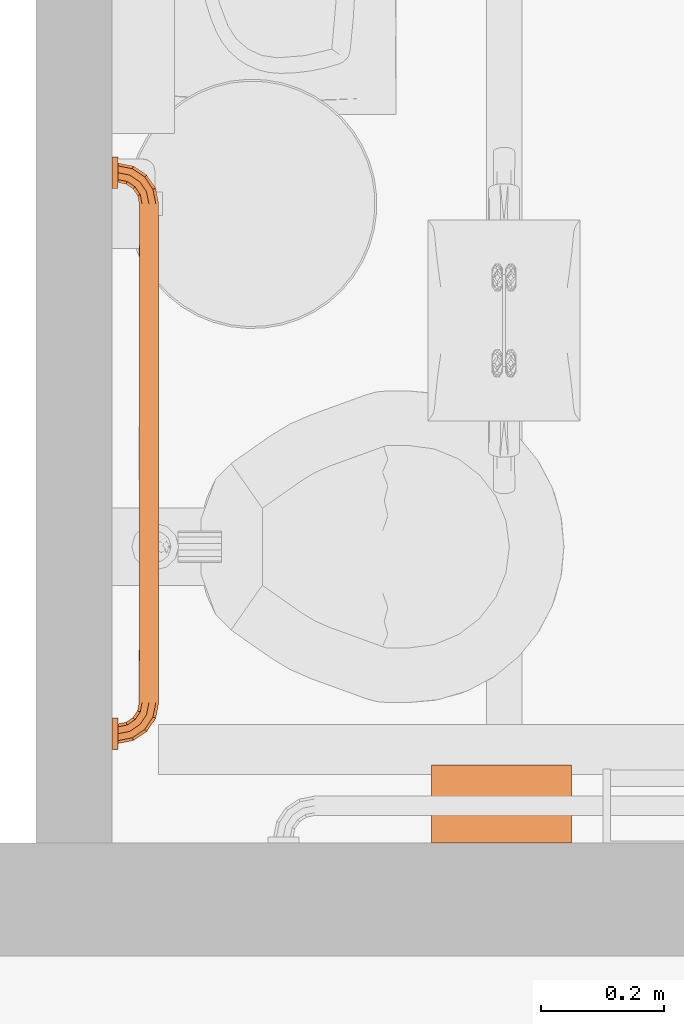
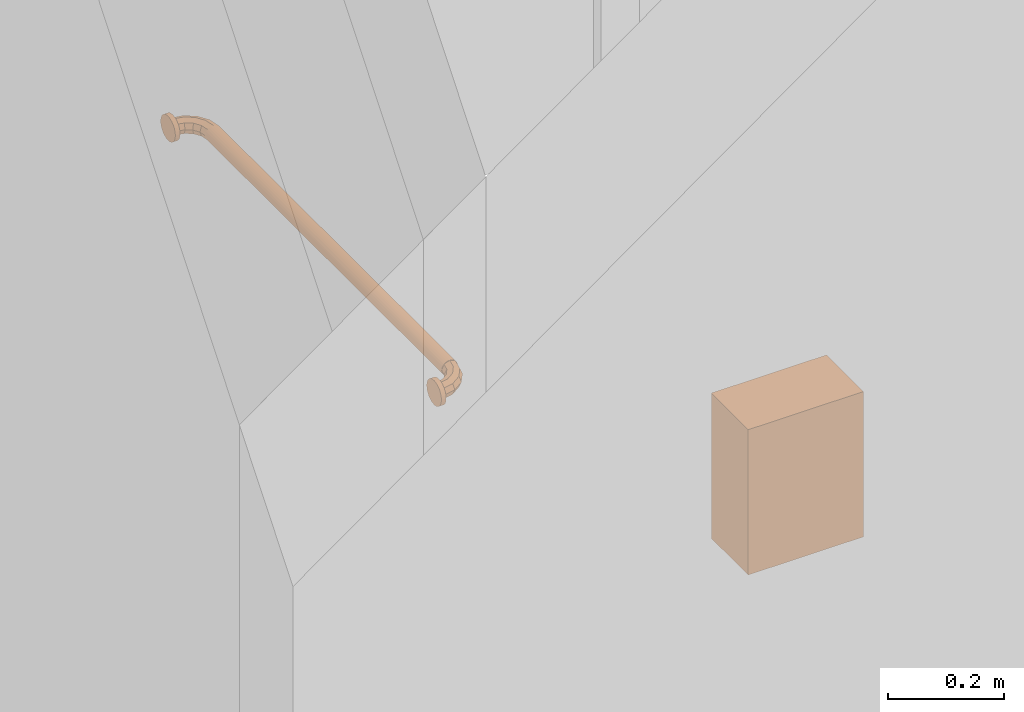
# One storey, part 69 of 142: 2 proxies.
"""IFC2X3 building model written with IfcOpenShell, lengths in feet."""

from ifc_helpers import new_model, entity, si_unit, converted_unit, derived_unit, direction, frame, frame_2d, origin, origin_2d_with_axis, place, context, subcontext, project, spatial, polyline, rectangle, outline, extrude, faceted_brep, source, transform, mapped, type_object, type_shapes, element, save


model = new_model("IFC2X3")

# Units and contexts
model_context = context("Model", 3, precision=0.0001, world=origin(), true_north=direction((6.12303176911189e-17, 1.0)))
body_context = subcontext(model_context, "Body", "Model", "MODEL_VIEW")
ifc_project = project(units=[converted_unit("LENGTHUNIT", "FOOT", entity("IfcRatioMeasure", 0.3048), si_unit("LENGTHUNIT", "METRE"), dimensions=[1, 0, 0, 0, 0, 0, 0]), converted_unit("AREAUNIT", "SQUARE FOOT", entity("IfcRatioMeasure", 0.09290304), si_unit("AREAUNIT", "SQUARE_METRE"), dimensions=[2, 0, 0, 0, 0, 0, 0]), converted_unit("VOLUMEUNIT", "CUBIC FOOT", entity("IfcRatioMeasure", 0.028316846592), si_unit("VOLUMEUNIT", "CUBIC_METRE"), dimensions=[3, 0, 0, 0, 0, 0, 0]), converted_unit("PLANEANGLEUNIT", "DEGREE", entity("IfcRatioMeasure", 0.0174532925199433), si_unit("PLANEANGLEUNIT", "RADIAN"), dimensions=[0, 0, 0, 0, 0, 0, 0]), si_unit("MASSUNIT", "GRAM", prefix="KILO"), derived_unit("MASSDENSITYUNIT", [(si_unit("MASSUNIT", "GRAM", prefix="KILO"), 1), (si_unit("LENGTHUNIT", "METRE"), -3)]), si_unit("TIMEUNIT", "SECOND"), si_unit("FREQUENCYUNIT", "HERTZ"), si_unit("THERMODYNAMICTEMPERATUREUNIT", "DEGREE_CELSIUS"), derived_unit("THERMALTRANSMITTANCEUNIT", [(si_unit("MASSUNIT", "GRAM", prefix="KILO"), 1), (si_unit("THERMODYNAMICTEMPERATUREUNIT", "KELVIN"), -1), (si_unit("TIMEUNIT", "SECOND"), -3)]), derived_unit("VOLUMETRICFLOWRATEUNIT", [(si_unit("LENGTHUNIT", "METRE"), 3), (si_unit("TIMEUNIT", "SECOND"), -1)]), si_unit("ELECTRICCURRENTUNIT", "AMPERE"), si_unit("ELECTRICVOLTAGEUNIT", "VOLT"), si_unit("POWERUNIT", "WATT"), si_unit("FORCEUNIT", "NEWTON"), si_unit("ILLUMINANCEUNIT", "LUX"), si_unit("LUMINOUSFLUXUNIT", "LUMEN"), si_unit("LUMINOUSINTENSITYUNIT", "CANDELA"), derived_unit("USERDEFINED", [(si_unit("MASSUNIT", "GRAM", prefix="KILO"), -1), (si_unit("LENGTHUNIT", "METRE"), -2), (si_unit("TIMEUNIT", "SECOND"), 3), (si_unit("LUMINOUSFLUXUNIT", "LUMEN"), 1)]), derived_unit("LINEARVELOCITYUNIT", [(si_unit("LENGTHUNIT", "METRE"), 1), (si_unit("TIMEUNIT", "SECOND"), -1)]), si_unit("PRESSUREUNIT", "PASCAL"), derived_unit("USERDEFINED", [(si_unit("LENGTHUNIT", "METRE"), -2), (si_unit("MASSUNIT", "GRAM", prefix="KILO"), 1), (si_unit("TIMEUNIT", "SECOND"), -2)])], contexts=[model_context])

# Site, building, storey, space
site_placement = place(None, origin())
site = spatial("IfcSite", under=ifc_project, at=site_placement, Name="Default", CompositionType="ELEMENT")
building_placement = place(site_placement, origin())
building = spatial("IfcBuilding", under=site, at=building_placement, Name="OUTPATIENT / PACT CLINIC (Ch. 265)", CompositionType="ELEMENT")
storey_placement = place(building_placement, origin())
storey = spatial("IfcBuildingStorey", under=building, at=storey_placement, Name="LEVEL 1", CompositionType="ELEMENT", Elevation=0.0)
space_placement = place(storey_placement, origin())
space = spatial("IfcSpace", under=storey, at=space_placement, Name="TNPG1", CompositionType="ELEMENT", InteriorOrExteriorSpace="INTERNAL")

# Proxies
building_element_proxy_type_1 = type_object("IfcBuildingElementProxyType", Name="A5090 - Dispenser, Sanitary Napkin, SS, Surface Mounted", PredefinedType="NOTDEFINED")
shared_shape_1 = source(origin(), body_context, "Body", "SweptSolid", [
    extrude(rectangle(XDim=0.75, YDim=0.0833333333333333, at=frame_2d((0.0, -6.93889390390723e-18), x_axis=(1.0, 0.0))), frame((0.0, 0.0416666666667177, 0.87500000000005), z_axis=(0.0, 0.0, 1.0), x_axis=(-1.0, 0.0, 0.0)), (0.0, 0.0, 1.0), 0.125000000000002),
    extrude(outline(polyline([(-0.0828981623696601, -0.378205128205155), (0.0421018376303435, -0.378205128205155), (0.042101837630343, -0.0865384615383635), (0.0166807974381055, -0.0793339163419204), (-0.0043447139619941, -0.0589660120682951), (-0.017339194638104, -0.0289565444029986), (-0.0200557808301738, 0.0055055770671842), (-0.0120247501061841, 0.038461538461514), (0.00536525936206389, 0.0642129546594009), (0.0291073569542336, 0.0783071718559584), (0.0421018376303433, 0.0801282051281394), (0.0421018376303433, 0.371794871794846), (-0.0828981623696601, 0.371794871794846), (-0.0828981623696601, -0.378205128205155)])), frame((-0.00320512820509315, 0.0833333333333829, 0.917101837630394), z_axis=(0.0, 1.0, 0.0), x_axis=(0.0, 0.0, -1.0)), (0.0, 0.0, 1.0), 0.333333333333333),
    extrude(rectangle(XDim=0.749999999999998, YDim=0.416666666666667, at=origin_2d_with_axis()), frame((0.0, 0.208333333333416, 0.0), z_axis=(0.0, 0.0, 1.0), x_axis=(-1.0, 0.0, 0.0)), (0.0, 0.0, 1.0), 0.875000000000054),
])
type_shapes(building_element_proxy_type_1, [shared_shape_1])
proxy_1_placement = place(space_placement, frame((394.046783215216, -952.649655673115, 1.5)))
element("IfcBuildingElementProxy", 1, at=proxy_1_placement, inside=space, type_object=building_element_proxy_type_1, Name="A5090 - Dispenser, Sanitary Napkin, SS, Surface Mounted1:A5090 - Dispenser, Sanitary Napkin, SS, Surface Mounted", ObjectType="A5090 - Dispenser, Sanitary Napkin, SS, Surface Mounted", context=body_context, shape_type="MappedRepresentation", body=[
    mapped(shared_shape_1, transform((0.0, 0.0, 0.0), scale=1.0)),
])
building_element_proxy_type_2 = type_object("IfcBuildingElementProxyType", Name="A5109 - Grab Bar, 1.25 in Dia, SS, 2 Wall, W-C Accessible_Improved", PredefinedType="NOTDEFINED")
shared_shape_2 = source(origin(), body_context, "Body", "Brep", [
    faceted_brep([(0.987313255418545, 0.0950305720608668, 0.0520833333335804), (0.953288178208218, 0.0809369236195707, 0.0368284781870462), (0.963171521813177, 0.031249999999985, 0.0368284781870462), (1.0, 0.0312499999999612, 0.0520833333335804), (0.939194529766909, 0.0750991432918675, 0.0), (0.947916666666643, 0.0312499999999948, 0.0), (0.953288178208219, 0.0809369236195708, -0.0368284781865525), (0.963171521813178, 0.031249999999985, -0.0368284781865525), (0.987313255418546, 0.0950305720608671, -0.0520833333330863), (1.0, 0.0312499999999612, -0.0520833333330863), (1.02133833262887, 0.109124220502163, -0.036828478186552), (1.03682847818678, 0.0312499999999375, -0.036828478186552), (1.03543198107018, 0.114962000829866, 0.0), (1.05208333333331, 0.0312499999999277, 0.0), (1.02133833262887, 0.109124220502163, 0.0368284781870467), (1.03682847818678, 0.0312499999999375, 0.0368284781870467), (0.951184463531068, 0.149101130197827, 0.0520833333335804), (0.925142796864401, 0.12305946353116, 0.0368284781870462), (0.914355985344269, 0.112272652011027, 0.0), (0.925142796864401, 0.12305946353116, -0.0368284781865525), (0.951184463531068, 0.149101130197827, -0.0520833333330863), (0.977226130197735, 0.175142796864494, -0.036828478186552), (0.988012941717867, 0.185929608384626, 0.0), (0.977226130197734, 0.175142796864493, 0.0368284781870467), (0.897113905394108, 0.185229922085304, 0.0520833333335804), (0.883020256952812, 0.151204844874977, 0.0368284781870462), (0.877182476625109, 0.137111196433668, 0.0), (0.883020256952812, 0.151204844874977, -0.0368284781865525), (0.897113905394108, 0.185229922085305, -0.0520833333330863), (0.911207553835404, 0.219254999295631, -0.036828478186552), (0.917045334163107, 0.23334864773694, 0.0), (0.911207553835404, 0.219254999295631, 0.0368284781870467), (0.833333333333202, 0.197916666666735, 0.0520833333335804), (0.833333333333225, 0.161088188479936, 0.0368284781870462), (0.833333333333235, 0.145833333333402, 0.0), (0.833333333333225, 0.161088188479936, -0.0368284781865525), (0.833333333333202, 0.197916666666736, -0.0520833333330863), (0.833333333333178, 0.234745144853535, -0.036828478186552), (0.833333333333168, 0.250000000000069, 0.0), (0.833333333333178, 0.234745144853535, 0.0368284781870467)], [[[0, 1, 2, 3]], [[1, 4, 5, 2]], [[4, 6, 7, 5]], [[6, 8, 9, 7]], [[8, 10, 11, 9]], [[10, 12, 13, 11]], [[12, 14, 15, 13]], [[14, 0, 3, 15]], [[16, 17, 1, 0]], [[17, 18, 4, 1]], [[18, 19, 6, 4]], [[19, 20, 8, 6]], [[20, 21, 10, 8]], [[21, 22, 12, 10]], [[22, 23, 14, 12]], [[23, 16, 0, 14]], [[24, 25, 17, 16]], [[25, 26, 18, 17]], [[26, 27, 19, 18]], [[27, 28, 20, 19]], [[28, 29, 21, 20]], [[29, 30, 22, 21]], [[30, 31, 23, 22]], [[31, 24, 16, 23]], [[32, 33, 25, 24]], [[33, 34, 26, 25]], [[34, 35, 27, 26]], [[35, 36, 28, 27]], [[36, 37, 29, 28]], [[37, 38, 30, 29]], [[38, 39, 31, 30]], [[39, 32, 24, 31]], [[3, 2, 5, 7, 9, 11, 13, 15]], [[39, 38, 37, 36, 35, 34, 33, 32]]]),
    faceted_brep([(0.958333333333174, 0.0312499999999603, -0.0721687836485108), (0.941074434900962, 0.0312499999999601, -0.0589255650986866), (0.927831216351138, 0.0312499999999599, -0.0416666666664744), (0.919506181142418, 0.0312499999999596, -0.0215682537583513), (0.916666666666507, 0.0312499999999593, 0.0), (0.919506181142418, 0.031249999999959, 0.021568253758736), (0.927831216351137, 0.0312499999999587, 0.0416666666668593), (0.941074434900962, 0.0312499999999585, 0.0589255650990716), (0.958333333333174, 0.0312499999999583, 0.0721687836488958), (0.978431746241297, 0.0312499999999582, 0.080493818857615), (1.0, 0.0312499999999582, 0.083333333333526), (1.02156825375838, 0.0312499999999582, 0.080493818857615), (1.04166666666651, 0.0312499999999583, 0.0721687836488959), (1.05892556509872, 0.0312499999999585, 0.0589255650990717), (1.07216878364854, 0.0312499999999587, 0.0416666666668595), (1.08049381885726, 0.031249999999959, 0.0215682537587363), (1.08333333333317, 0.0312499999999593, 0.0), (1.08049381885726, 0.0312499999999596, -0.0215682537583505), (1.07216878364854, 0.0312499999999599, -0.0416666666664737), (1.05892556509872, 0.0312499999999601, -0.0589255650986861), (1.04166666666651, 0.0312499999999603, -0.0721687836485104), (1.02156825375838, 0.0312499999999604, -0.0804938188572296), (1.0, 0.0312499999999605, -0.0833333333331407), (0.978431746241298, 0.0312499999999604, -0.0804938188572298), (0.978431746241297, 0.0, 0.0804938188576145), (0.958333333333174, 0.0, 0.0721687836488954), (0.941074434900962, 0.0, 0.0589255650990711), (0.927831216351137, 0.0, 0.0416666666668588), (0.919506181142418, 0.0, 0.0215682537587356), (0.916666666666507, 0.0, 0.0), (0.919506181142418, 0.0, -0.0215682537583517), (0.927831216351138, 0.0, -0.0416666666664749), (0.941074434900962, 0.0, -0.0589255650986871), (0.958333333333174, 0.0, -0.0721687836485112), (0.978431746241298, 0.0, -0.0804938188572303), (1.0, 0.0, -0.0833333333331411), (1.02156825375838, 0.0, -0.0804938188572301), (1.04166666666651, 0.0, -0.0721687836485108), (1.05892556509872, 0.0, -0.0589255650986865), (1.07216878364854, 0.0, -0.0416666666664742), (1.08049381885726, 0.0, -0.0215682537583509), (1.08333333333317, 0.0, 0.0), (1.08049381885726, 0.0, 0.0215682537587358), (1.07216878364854, 0.0, 0.0416666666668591), (1.05892556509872, 0.0, 0.0589255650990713), (1.04166666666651, 0.0, 0.0721687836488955), (1.02156825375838, 0.0, 0.0804938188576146), (1.0, 0.0, 0.0833333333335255)], [[[0, 1, 2, 3, 4, 5, 6, 7, 8, 9, 10, 11, 12, 13, 14, 15, 16, 17, 18, 19, 20, 21, 22, 23]], [[24, 25, 26, 27, 28, 29, 30, 31, 32, 33, 34, 35, 36, 37, 38, 39, 40, 41, 42, 43, 44, 45, 46, 47]], [[40, 17, 16, 41]], [[39, 18, 17, 40]], [[20, 19, 38, 37]], [[39, 38, 19, 18]], [[21, 20, 37, 36]], [[22, 21, 36, 35]], [[34, 23, 22, 35]], [[33, 0, 23, 34]], [[2, 1, 32, 31]], [[33, 32, 1, 0]], [[3, 2, 31, 30]], [[4, 3, 30, 29]], [[28, 5, 4, 29]], [[27, 6, 5, 28]], [[8, 7, 26, 25]], [[27, 26, 7, 6]], [[9, 8, 25, 24]], [[10, 9, 24, 47]], [[46, 11, 10, 47]], [[45, 12, 11, 46]], [[14, 13, 44, 43]], [[45, 44, 13, 12]], [[15, 14, 43, 42]], [[16, 15, 42, 41]]]),
    faceted_brep([(-1.89711390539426, 0.185229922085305, 0.052083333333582), (-1.88302025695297, 0.151204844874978, 0.0368284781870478), (-1.83333333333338, 0.161088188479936, 0.0368284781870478), (-1.83333333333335, 0.197916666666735, 0.052083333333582), (-1.87718247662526, 0.137111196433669, 0.0), (-1.83333333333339, 0.145833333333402, 0.0), (-1.88302025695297, 0.151204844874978, -0.0368284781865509), (-1.83333333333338, 0.161088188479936, -0.0368284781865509), (-1.89711390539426, 0.185229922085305, -0.0520833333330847), (-1.83333333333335, 0.197916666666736, -0.0520833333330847), (-1.91120755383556, 0.219254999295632, -0.0368284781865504), (-1.83333333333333, 0.234745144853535, -0.0368284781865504), (-1.91704533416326, 0.233348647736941, 0.0), (-1.83333333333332, 0.250000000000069, 0.0), (-1.91120755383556, 0.219254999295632, 0.0368284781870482), (-1.83333333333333, 0.234745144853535, 0.0368284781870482), (-1.95118446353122, 0.149101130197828, 0.052083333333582), (-1.92514279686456, 0.123059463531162, 0.0368284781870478), (-1.91435598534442, 0.112272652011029, 0.0), (-1.92514279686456, 0.123059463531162, -0.0368284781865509), (-1.95118446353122, 0.149101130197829, -0.0520833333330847), (-1.97722613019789, 0.175142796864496, -0.0368284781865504), (-1.98801294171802, 0.185929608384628, 0.0), (-1.97722613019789, 0.175142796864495, 0.0368284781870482), (-1.9873132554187, 0.0950305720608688, 0.052083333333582), (-1.95328817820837, 0.0809369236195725, 0.0368284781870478), (-1.93919452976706, 0.0750991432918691, 0.0), (-1.95328817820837, 0.0809369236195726, -0.0368284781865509), (-1.9873132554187, 0.0950305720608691, -0.0520833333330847), (-2.02133833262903, 0.109124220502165, -0.0368284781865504), (-2.03543198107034, 0.114962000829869, 0.0), (-2.02133833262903, 0.109124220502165, 0.0368284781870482), (-2.0, 0.0312499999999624, 0.052083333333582), (-1.96317152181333, 0.0312499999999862, 0.0368284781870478), (-1.9479166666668, 0.0312499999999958, 0.0), (-1.96317152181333, 0.0312499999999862, -0.0368284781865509), (-2.0, 0.0312499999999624, -0.0520833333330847), (-2.03682847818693, 0.0312499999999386, -0.0368284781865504), (-2.05208333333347, 0.031249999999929, 0.0), (-2.03682847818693, 0.0312499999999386, 0.0368284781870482)], [[[0, 1, 2, 3]], [[1, 4, 5, 2]], [[4, 6, 7, 5]], [[6, 8, 9, 7]], [[8, 10, 11, 9]], [[10, 12, 13, 11]], [[12, 14, 15, 13]], [[14, 0, 3, 15]], [[16, 17, 1, 0]], [[17, 18, 4, 1]], [[18, 19, 6, 4]], [[19, 20, 8, 6]], [[20, 21, 10, 8]], [[21, 22, 12, 10]], [[22, 23, 14, 12]], [[23, 16, 0, 14]], [[24, 25, 17, 16]], [[25, 26, 18, 17]], [[26, 27, 19, 18]], [[27, 28, 20, 19]], [[28, 29, 21, 20]], [[29, 30, 22, 21]], [[30, 31, 23, 22]], [[31, 24, 16, 23]], [[32, 33, 25, 24]], [[33, 34, 26, 25]], [[34, 35, 27, 26]], [[35, 36, 28, 27]], [[36, 37, 29, 28]], [[37, 38, 30, 29]], [[38, 39, 31, 30]], [[39, 32, 24, 31]], [[3, 2, 5, 7, 9, 11, 13, 15]], [[39, 38, 37, 36, 35, 34, 33, 32]]]),
    faceted_brep([(-1.97843174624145, 0.0312499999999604, -0.0804938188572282), (-2.0, 0.0312499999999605, -0.0833333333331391), (-2.02156825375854, 0.0312499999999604, -0.080493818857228), (-2.04166666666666, 0.0312499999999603, -0.0721687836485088), (-2.05892556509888, 0.0312499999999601, -0.0589255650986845), (-2.0721687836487, 0.0312499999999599, -0.0416666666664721), (-2.08049381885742, 0.0312499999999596, -0.0215682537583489), (-2.08333333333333, 0.0312499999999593, 0.0), (-2.08049381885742, 0.031249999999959, 0.0215682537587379), (-2.0721687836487, 0.0312499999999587, 0.0416666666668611), (-2.05892556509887, 0.0312499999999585, 0.0589255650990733), (-2.04166666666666, 0.0312499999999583, 0.0721687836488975), (-2.02156825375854, 0.0312499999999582, 0.0804938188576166), (-2.0, 0.0312499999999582, 0.0833333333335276), (-1.97843174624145, 0.0312499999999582, 0.0804938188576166), (-1.95833333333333, 0.0312499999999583, 0.0721687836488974), (-1.94107443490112, 0.0312499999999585, 0.0589255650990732), (-1.92783121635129, 0.0312499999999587, 0.0416666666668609), (-1.91950618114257, 0.031249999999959, 0.0215682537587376), (-1.91666666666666, 0.0312499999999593, 0.0), (-1.91950618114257, 0.0312499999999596, -0.0215682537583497), (-1.92783121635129, 0.0312499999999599, -0.0416666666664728), (-1.94107443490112, 0.0312499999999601, -0.058925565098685), (-1.95833333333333, 0.0312499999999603, -0.0721687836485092), (-2.0, 0.0, 0.0833333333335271), (-2.02156825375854, 0.0, 0.0804938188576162), (-2.04166666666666, 0.0, 0.0721687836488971), (-2.05892556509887, 0.0, 0.0589255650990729), (-2.0721687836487, 0.0, 0.0416666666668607), (-2.08049381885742, 0.0, 0.0215682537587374), (-2.08333333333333, 0.0, 0.0), (-2.08049381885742, 0.0, -0.0215682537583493), (-2.0721687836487, 0.0, -0.0416666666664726), (-2.05892556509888, 0.0, -0.0589255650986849), (-2.04166666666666, 0.0, -0.0721687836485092), (-2.02156825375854, 0.0, -0.0804938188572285), (-2.0, 0.0, -0.0833333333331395), (-1.97843174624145, 0.0, -0.0804938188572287), (-1.95833333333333, 0.0, -0.0721687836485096), (-1.94107443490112, 0.0, -0.0589255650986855), (-1.92783121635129, 0.0, -0.0416666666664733), (-1.91950618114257, 0.0, -0.0215682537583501), (-1.91666666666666, 0.0, 0.0), (-1.91950618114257, 0.0, 0.0215682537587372), (-1.92783121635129, 0.0, 0.0416666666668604), (-1.94107443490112, 0.0, 0.0589255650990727), (-1.95833333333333, 0.0, 0.072168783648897), (-1.97843174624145, 0.0, 0.0804938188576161)], [[[0, 1, 2, 3, 4, 5, 6, 7, 8, 9, 10, 11, 12, 13, 14, 15, 16, 17, 18, 19, 20, 21, 22, 23]], [[24, 25, 26, 27, 28, 29, 30, 31, 32, 33, 34, 35, 36, 37, 38, 39, 40, 41, 42, 43, 44, 45, 46, 47]], [[30, 7, 6, 31]], [[31, 6, 5, 32]], [[34, 33, 4, 3]], [[4, 33, 32, 5]], [[35, 34, 3, 2]], [[35, 2, 1, 36]], [[36, 1, 0, 37]], [[37, 0, 23, 38]], [[40, 39, 22, 21]], [[22, 39, 38, 23]], [[41, 40, 21, 20]], [[41, 20, 19, 42]], [[42, 19, 18, 43]], [[43, 18, 17, 44]], [[46, 45, 16, 15]], [[16, 45, 44, 17]], [[47, 46, 15, 14]], [[47, 14, 13, 24]], [[24, 13, 12, 25]], [[25, 12, 11, 26]], [[28, 27, 10, 9]], [[10, 27, 26, 11]], [[29, 28, 9, 8]], [[29, 8, 7, 30]]]),
    faceted_brep([(0.833333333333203, 0.161088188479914, 0.0368284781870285), (0.833333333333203, 0.152811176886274, 0.0260416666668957), (0.833333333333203, 0.147608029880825, 0.0134801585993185), (0.833333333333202, 0.14583333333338, 0.0), (0.833333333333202, 0.147608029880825, -0.0134801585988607), (0.833333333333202, 0.152811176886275, -0.0260416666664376), (0.833333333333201, 0.161088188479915, -0.0368284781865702), (0.833333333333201, 0.171875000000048, -0.0451054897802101), (0.833333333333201, 0.184436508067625, -0.0503086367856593), (0.833333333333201, 0.197916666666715, -0.0520833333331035), (0.833333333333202, 0.211396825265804, -0.0503086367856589), (0.833333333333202, 0.223958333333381, -0.0451054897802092), (0.833333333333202, 0.234745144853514, -0.0368284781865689), (0.833333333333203, 0.243022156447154, -0.0260416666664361), (0.833333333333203, 0.248225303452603, -0.013480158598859), (0.833333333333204, 0.250000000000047, 0.0), (0.833333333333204, 0.248225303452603, 0.0134801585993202), (0.833333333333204, 0.243022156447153, 0.0260416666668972), (0.833333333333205, 0.234745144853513, 0.0368284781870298), (0.833333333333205, 0.22395833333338, 0.0451054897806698), (0.833333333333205, 0.211396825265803, 0.050308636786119), (0.833333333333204, 0.197916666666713, 0.0520833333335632), (0.833333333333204, 0.184436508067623, 0.0503086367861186), (0.833333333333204, 0.171875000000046, 0.0451054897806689), (-1.83333333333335, 0.250000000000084, 0.0), (-1.83333333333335, 0.24822530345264, -0.0134801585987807), (-1.83333333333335, 0.243022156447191, -0.0260416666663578), (-1.83333333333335, 0.234745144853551, -0.0368284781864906), (-1.83333333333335, 0.223958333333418, -0.0451054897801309), (-1.83333333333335, 0.211396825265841, -0.0503086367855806), (-1.83333333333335, 0.197916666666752, -0.0520833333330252), (-1.83333333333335, 0.184436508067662, -0.050308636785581), (-1.83333333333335, 0.171875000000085, -0.0451054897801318), (-1.83333333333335, 0.161088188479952, -0.0368284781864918), (-1.83333333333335, 0.152811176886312, -0.0260416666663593), (-1.83333333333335, 0.147608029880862, -0.0134801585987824), (-1.83333333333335, 0.145833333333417, 0.0), (-1.83333333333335, 0.147608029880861, 0.0134801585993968), (-1.83333333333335, 0.152811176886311, 0.026041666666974), (-1.83333333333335, 0.161088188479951, 0.0368284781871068), (-1.83333333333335, 0.171875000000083, 0.0451054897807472), (-1.83333333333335, 0.18443650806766, 0.0503086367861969), (-1.83333333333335, 0.19791666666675, 0.0520833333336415), (-1.83333333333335, 0.21139682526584, 0.0503086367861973), (-1.83333333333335, 0.223958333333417, 0.0451054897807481), (-1.83333333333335, 0.23474514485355, 0.036828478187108), (-1.83333333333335, 0.24302215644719, 0.0260416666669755), (-1.83333333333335, 0.248225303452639, 0.0134801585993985), (0.027611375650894, 0.177985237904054, 0.0481187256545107), (0.213018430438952, 0.166210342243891, 0.0413204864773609), (0.0276113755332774, 0.156596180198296, 0.0317063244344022), (0.223932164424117, 0.149797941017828, 0.0199314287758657), (0.213018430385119, 0.14979794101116, -0.0199314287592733), (-0.500000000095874, 0.149797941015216, -0.0199314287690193), (-1.2130184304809, 0.14979794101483, -0.0199314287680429), (-0.500000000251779, 0.154851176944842, -0.0292922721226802), (0.21301843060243, 0.166210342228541, -0.0413204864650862), (-0.38666469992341, 0.187504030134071, -0.0510318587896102), (0.273230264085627, 0.187922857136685, -0.0511155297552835), (0.0276113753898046, 0.177985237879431, -0.0481187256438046), (-0.49999999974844, 0.166210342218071, -0.0413204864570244), (-1.02761137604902, 0.156596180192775, -0.0317063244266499), (-1.21301843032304, 0.166210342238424, -0.0413204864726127), (0.027611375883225, 0.15659618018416, -0.0317063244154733), (-0.500000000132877, 0.146752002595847, -0.00973913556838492), (-1.02761137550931, 0.146278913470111, -0.00679823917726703), (-1.02761137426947, 0.177985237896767, -0.0481187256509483), (-0.499999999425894, 0.177964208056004, -0.0481100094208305), (-1.02761137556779, 0.156596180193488, 0.0317063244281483), (-0.00758943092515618, 0.197916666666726, -0.0520833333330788), (-1.27323026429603, 0.18792285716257, 0.0511155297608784), (-0.992385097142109, 0.197916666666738, 0.0520833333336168), (0.0276113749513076, 0.146278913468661, -0.00679823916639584), (0.200359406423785, 0.146278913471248, 0.00679823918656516), (-1.22393216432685, 0.149797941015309, 0.0199314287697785), (-0.500000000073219, 0.149797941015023, 0.0199314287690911), (-0.49999999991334, 0.154851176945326, 0.0292922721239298), (-1.20035940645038, 0.146278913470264, 0.00679823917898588), (-1.21301843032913, 0.166210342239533, 0.041320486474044), (-0.499999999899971, 0.166210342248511, 0.0413204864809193), (-1.02761137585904, 0.177985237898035, 0.0481187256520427), (-0.50000000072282, 0.145915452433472, 0.00292358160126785), (0.264201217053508, 0.188316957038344, 0.051191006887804), (-1.26420121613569, 0.188316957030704, -0.0511910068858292), (-0.613335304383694, 0.187504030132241, 0.0510318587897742), (-0.50000000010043, 0.177964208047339, 0.0481100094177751), (-0.920461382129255, 0.197916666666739, -0.052083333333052), (-0.079537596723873, 0.197916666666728, -0.0520833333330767), (-0.0795258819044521, 0.197916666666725, 0.05208333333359), (-0.920474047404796, 0.197916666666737, 0.0520833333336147), (-0.992408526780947, 0.19791666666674, -0.0520833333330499), (-0.00758275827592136, 0.197916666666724, 0.0520833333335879), (0.0276113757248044, 0.217848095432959, -0.0481187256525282), (0.213018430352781, 0.229622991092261, -0.0413204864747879), (0.0276113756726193, 0.239237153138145, -0.0317063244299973), (0.223932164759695, 0.24603539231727, -0.0199314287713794), (0.213018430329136, 0.246035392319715, 0.0199314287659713), (-0.500000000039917, 0.246035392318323, 0.0199314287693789), (-1.21301843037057, 0.246035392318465, 0.0199314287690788), (-0.50000000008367, 0.240982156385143, 0.0292922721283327), (0.213018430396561, 0.229622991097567, 0.0413204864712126), (-0.386664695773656, 0.208329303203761, 0.0510318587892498), (0.273230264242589, 0.207910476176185, 0.0511155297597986), (0.0276113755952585, 0.217848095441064, 0.0481187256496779), (-0.49999999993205, 0.229622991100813, 0.0413204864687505), (-1.02761137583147, 0.239237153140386, 0.0317063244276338), (-1.21301843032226, 0.229622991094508, 0.0413204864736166), (0.0276113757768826, 0.239237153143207, 0.0317063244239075), (-0.500000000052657, 0.249081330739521, 0.00973913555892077), (-1.02761137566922, 0.249554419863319, 0.00679823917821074), (-1.02761137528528, 0.217848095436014, 0.0481187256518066), (-0.499999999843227, 0.217869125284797, 0.0481100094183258), (-1.0276113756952, 0.239237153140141, -0.0317063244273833), (-1.27323026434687, 0.207910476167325, -0.0511155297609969), (0.0276113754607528, 0.249554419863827, 0.00679823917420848), (0.200359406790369, 0.249554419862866, -0.0067982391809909), (-1.22393216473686, 0.246035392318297, -0.0199314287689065), (-0.500000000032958, 0.246035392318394, -0.0199314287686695), (-0.499999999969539, 0.240982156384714, -0.0292922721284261), (-1.20035940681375, 0.249554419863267, -0.00679823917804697), (-1.21301843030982, 0.229622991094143, -0.0413204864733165), (-0.499999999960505, 0.229622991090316, -0.041320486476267), (-1.02761137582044, 0.217848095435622, -0.0481187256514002), (-0.500000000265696, 0.249917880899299, -0.00292358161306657), (0.264201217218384, 0.207516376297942, -0.0511910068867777), (-1.26420121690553, 0.207516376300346, 0.0511910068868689), (-0.613335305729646, 0.20832930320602, -0.0510318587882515), (-0.500000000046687, 0.217869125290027, -0.048110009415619)], [[[0, 1, 2, 3, 4, 5, 6, 7, 8, 9, 10, 11, 12, 13, 14, 15, 16, 17, 18, 19, 20, 21, 22, 23]], [[24, 25, 26, 27, 28, 29, 30, 31, 32, 33, 34, 35, 36, 37, 38, 39, 40, 41, 42, 43, 44, 45, 46, 47]], [[23, 48, 49]], [[1, 50, 51]], [[52, 53, 54, 55]], [[7, 6, 56]], [[35, 34, 54]], [[57, 58, 59]], [[59, 58, 8]], [[60, 61, 62]], [[60, 56, 63]], [[34, 61, 54]], [[54, 64, 65]], [[32, 31, 66]], [[65, 36, 35]], [[57, 67, 66]], [[32, 62, 33]], [[68, 39, 38]], [[58, 69, 9]], [[42, 70, 71]], [[59, 56, 60]], [[60, 62, 66]], [[63, 52, 55]], [[72, 3, 73]], [[52, 5, 4]], [[6, 5, 63]], [[4, 72, 52]], [[74, 75, 51, 76]], [[77, 74, 37]], [[39, 68, 78]], [[61, 60, 55]], [[7, 59, 8]], [[79, 80, 78]], [[79, 49, 48]], [[81, 77, 65]], [[53, 52, 64, 54]], [[40, 39, 78]], [[6, 63, 56]], [[23, 22, 48]], [[72, 4, 3]], [[2, 51, 73]], [[0, 50, 1]], [[61, 34, 33]], [[32, 66, 62]], [[50, 49, 79]], [[79, 78, 68]], [[82, 22, 21]], [[74, 76, 68]], [[49, 0, 23]], [[83, 31, 30]], [[37, 36, 77]], [[80, 41, 40]], [[73, 3, 2]], [[65, 77, 36]], [[50, 79, 76]], [[84, 85, 48]], [[80, 70, 41]], [[84, 70, 80]], [[59, 67, 57]], [[66, 31, 83]], [[80, 85, 84]], [[48, 22, 82]], [[38, 37, 74]], [[81, 73, 75]], [[81, 64, 72]], [[1, 51, 2]], [[35, 54, 65]], [[5, 52, 63]], [[7, 56, 59]], [[33, 62, 61]], [[0, 49, 50]], [[40, 78, 80]], [[38, 74, 68]], [[74, 77, 75]], [[51, 75, 73]], [[77, 81, 75]], [[81, 72, 73]], [[65, 64, 81]], [[72, 64, 52]], [[8, 58, 9]], [[69, 58, 57]], [[57, 86, 87, 69]], [[83, 86, 57]], [[67, 60, 66]], [[67, 59, 60]], [[63, 55, 60]], [[61, 55, 54]], [[68, 76, 79]], [[50, 76, 51]], [[41, 70, 42]], [[71, 70, 84]], [[84, 88, 89, 71]], [[82, 88, 84]], [[85, 79, 48]], [[85, 80, 79]], [[66, 83, 57]], [[83, 30, 90, 86]], [[48, 82, 84]], [[82, 21, 91, 88]], [[11, 92, 93]], [[13, 94, 95]], [[96, 97, 98, 99]], [[19, 18, 100]], [[47, 46, 98]], [[101, 102, 103]], [[103, 102, 20]], [[104, 105, 106]], [[104, 100, 107]], [[46, 105, 98]], [[98, 108, 109]], [[44, 43, 110]], [[109, 24, 47]], [[101, 111, 110]], [[44, 106, 45]], [[112, 27, 26]], [[102, 91, 21]], [[30, 113, 90]], [[103, 100, 104]], [[104, 106, 110]], [[107, 96, 99]], [[114, 15, 115]], [[96, 17, 16]], [[18, 17, 107]], [[16, 114, 96]], [[116, 117, 95, 118]], [[119, 116, 25]], [[27, 112, 120]], [[105, 104, 99]], [[19, 103, 20]], [[121, 122, 120]], [[121, 93, 92]], [[123, 119, 109]], [[97, 96, 108, 98]], [[28, 27, 120]], [[18, 107, 100]], [[11, 10, 92]], [[114, 16, 15]], [[14, 95, 115]], [[12, 94, 13]], [[105, 46, 45]], [[44, 110, 106]], [[94, 93, 121]], [[121, 120, 112]], [[124, 10, 9]], [[116, 118, 112]], [[93, 12, 11]], [[125, 43, 42]], [[25, 24, 119]], [[122, 29, 28]], [[115, 15, 14]], [[109, 119, 24]], [[94, 121, 118]], [[126, 127, 92]], [[122, 113, 29]], [[126, 113, 122]], [[103, 111, 101]], [[110, 43, 125]], [[122, 127, 126]], [[92, 10, 124]], [[26, 25, 116]], [[123, 115, 117]], [[123, 108, 114]], [[13, 95, 14]], [[47, 98, 109]], [[17, 96, 107]], [[19, 100, 103]], [[45, 106, 105]], [[12, 93, 94]], [[28, 120, 122]], [[26, 116, 112]], [[116, 119, 117]], [[95, 117, 115]], [[119, 123, 117]], [[123, 114, 115]], [[109, 108, 123]], [[114, 108, 96]], [[20, 102, 21]], [[91, 102, 101]], [[101, 89, 88, 91]], [[125, 89, 101]], [[111, 104, 110]], [[111, 103, 104]], [[107, 99, 104]], [[105, 99, 98]], [[112, 118, 121]], [[94, 118, 95]], [[29, 113, 30]], [[90, 113, 126]], [[126, 87, 86, 90]], [[124, 87, 126]], [[127, 121, 92]], [[127, 122, 121]], [[110, 125, 101]], [[125, 42, 71, 89]], [[92, 124, 126]], [[124, 9, 69, 87]]]),
])
type_shapes(building_element_proxy_type_2, [shared_shape_2])
proxy_2_placement = place(space_placement, frame((391.963449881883, -951.066322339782, 3.0), z_axis=(0.0, 0.0, 1.0), x_axis=(0.0, -1.0, 0.0)))
element("IfcBuildingElementProxy", 2, at=proxy_2_placement, inside=space, type_object=building_element_proxy_type_2, Name="A5109 - Grab Bar, 1.25 in Dia, SS, 2 Wall, W-C Accessible_Improved1:A5109 - Grab Bar, 1.25 in Dia, SS, 2 Wall, W-C Accessible_Improved", ObjectType="A5109 - Grab Bar, 1.25 in Dia, SS, 2 Wall, W-C Accessible_Improved", context=body_context, shape_type="MappedRepresentation", body=[
    mapped(shared_shape_2, transform((0.0, 0.0, 0.0), scale=1.0)),
])

save(model, "model.ifc")
